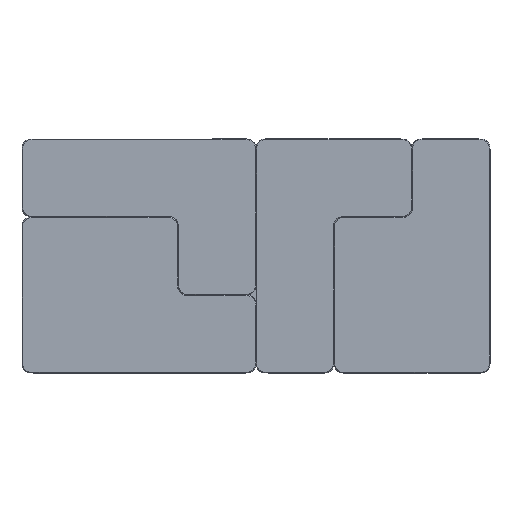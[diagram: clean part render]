
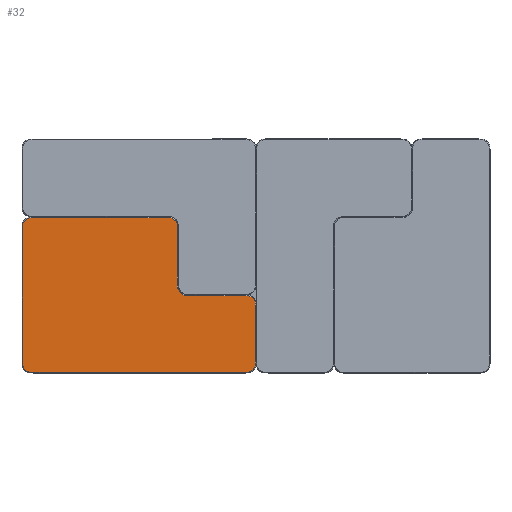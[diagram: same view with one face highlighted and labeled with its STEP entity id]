
A CAD part, top view. The second image highlights one B-rep face of the part: STEP entity #32.
In plain terms, the highlighted planar face has unit normal (0, 0, 1).
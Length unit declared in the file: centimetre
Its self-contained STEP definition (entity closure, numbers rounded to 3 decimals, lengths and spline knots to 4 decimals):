
#32=ADVANCED_FACE($,(#78),#469,.T.);
#78=FACE_OUTER_BOUND($,#124,.T.);
#124=EDGE_LOOP($,(#174,#175));
#174=ORIENTED_EDGE($,*,*,#329,.F.);
#175=ORIENTED_EDGE($,*,*,#323,.F.);
#323=EDGE_CURVE($,#398,#401,#492,.T.);
#329=EDGE_CURVE($,#401,#398,#497,.T.);
#398=VERTEX_POINT($,#970);
#401=VERTEX_POINT($,#973);
#469=PLANE($,#655);
#492=B_SPLINE_CURVE_WITH_KNOTS($,3,(#741,#742,#743,#744,#745,#746,#747,#748,
#749,#750,#751,#752,#753,#754,#755,#756,#757,#758,#759,#760,#761,#762),.UNSPECIFIED.,
.F.,.F.,(4,3,1,3,3,1,3,3,1,4),(0.,23.4,24.5392,25.7561,
49.1561,50.2954,51.5122,61.6122,62.9034,
64.2825),.UNSPECIFIED.);
#497=B_SPLINE_CURVE_WITH_KNOTS($,3,(#804,#805,#806,#807,#808,#809,#810,#811,
#812,#813,#814,#815,#816,#817,#818,#819,#820,#821,#822,#823,#824,#825),.UNSPECIFIED.,
.F.,.F.,(4,3,1,3,3,1,3,3,1,4),(64.2825,74.3825,75.5217,
76.7386,86.8386,87.9779,89.1947,125.8947,
127.034,128.2509),.UNSPECIFIED.);
#655=AXIS2_PLACEMENT_3D($,#853,#680,$);
#680=DIRECTION($,(0.,0.,1.));
#741=CARTESIAN_POINT($,(0.1,1.6,0.1));
#742=CARTESIAN_POINT($,(0.1,9.4,0.1));
#743=CARTESIAN_POINT($,(0.1,17.2,0.1));
#744=CARTESIAN_POINT($,(0.1,25.,0.1));
#745=CARTESIAN_POINT($,(0.0977,25.38,0.1));
#746=CARTESIAN_POINT($,(0.4141,26.1621,0.1));
#747=CARTESIAN_POINT($,(1.1936,26.5031,0.1));
#748=CARTESIAN_POINT($,(1.6,26.5,0.1));
#749=CARTESIAN_POINT($,(9.4,26.5,0.1));
#750=CARTESIAN_POINT($,(17.2,26.5,0.1));
#751=CARTESIAN_POINT($,(25.,26.5,0.1));
#752=CARTESIAN_POINT($,(25.3799,26.5023,0.1));
#753=CARTESIAN_POINT($,(26.1621,26.1859,0.1));
#754=CARTESIAN_POINT($,(26.5031,25.4064,0.1));
#755=CARTESIAN_POINT($,(26.5,25.,0.1));
#756=CARTESIAN_POINT($,(26.5,21.6334,0.1));
#757=CARTESIAN_POINT($,(26.5,18.2667,0.1));
#758=CARTESIAN_POINT($,(26.5,14.9,0.1));
#759=CARTESIAN_POINT($,(26.4974,14.4694,0.1));
#760=CARTESIAN_POINT($,(26.856,13.583,0.1));
#761=CARTESIAN_POINT($,(27.7394,13.1965,0.1));
#762=CARTESIAN_POINT($,(28.2,13.2,0.1));
#804=CARTESIAN_POINT($,(28.2,13.2,0.1));
#805=CARTESIAN_POINT($,(31.5667,13.2,0.1));
#806=CARTESIAN_POINT($,(34.9333,13.2,0.1));
#807=CARTESIAN_POINT($,(38.3,13.2,0.1));
#808=CARTESIAN_POINT($,(38.6799,13.2023,0.1));
#809=CARTESIAN_POINT($,(39.4621,12.8859,0.1));
#810=CARTESIAN_POINT($,(39.8031,12.1064,0.1));
#811=CARTESIAN_POINT($,(39.8,11.7,0.1));
#812=CARTESIAN_POINT($,(39.8,8.3334,0.1));
#813=CARTESIAN_POINT($,(39.8,4.9667,0.1));
#814=CARTESIAN_POINT($,(39.8,1.6,0.1));
#815=CARTESIAN_POINT($,(39.8023,1.2201,0.1));
#816=CARTESIAN_POINT($,(39.4859,0.4379,0.1));
#817=CARTESIAN_POINT($,(38.7064,0.0969,0.1));
#818=CARTESIAN_POINT($,(38.3,0.1,0.1));
#819=CARTESIAN_POINT($,(26.0667,0.1,0.1));
#820=CARTESIAN_POINT($,(13.8333,0.1,0.1));
#821=CARTESIAN_POINT($,(1.6,0.1,0.1));
#822=CARTESIAN_POINT($,(1.2201,0.0977,0.1));
#823=CARTESIAN_POINT($,(0.4379,0.4142,0.1));
#824=CARTESIAN_POINT($,(0.0969,1.1936,0.1));
#825=CARTESIAN_POINT($,(0.1,1.6,0.1));
#853=CARTESIAN_POINT($,(0.,26.6,0.1));
#970=CARTESIAN_POINT($,(0.1,1.6,0.1));
#973=CARTESIAN_POINT($,(28.2,13.2,0.1));
